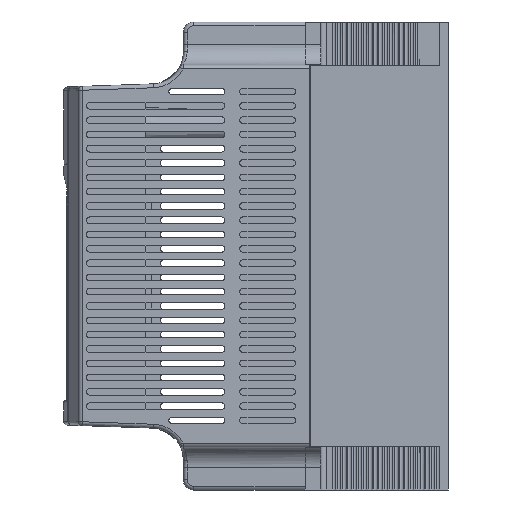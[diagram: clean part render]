
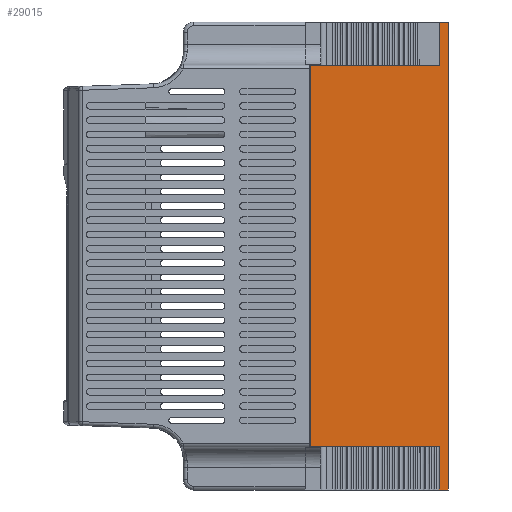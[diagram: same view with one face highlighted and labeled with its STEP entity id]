
A CAD part, left-side view. The second image highlights one B-rep face of the part: STEP entity #29015.
In plain terms, the highlighted planar face has unit normal (-1, 0, 0).
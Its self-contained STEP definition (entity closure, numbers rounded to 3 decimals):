
#1097=DIRECTION('',(0.,0.,1.));
#1098=VECTOR('',#1097,16.55);
#1099=CARTESIAN_POINT('',(-50.,-51.5,73.45));
#1100=LINE('',#1099,#1098);
#4853=DIRECTION('',(0.,0.,1.));
#4854=VECTOR('',#4853,180.);
#4855=CARTESIAN_POINT('',(-50.,-55.,-90.));
#4856=LINE('',#4855,#4854);
#6471=DIRECTION('',(0.,1.,0.));
#6472=VECTOR('',#6471,49.7);
#6473=CARTESIAN_POINT('',(-50.,-51.5,73.45));
#6474=LINE('',#6473,#6472);
#6483=DIRECTION('',(0.,0.,1.));
#6484=VECTOR('',#6483,146.9);
#6485=CARTESIAN_POINT('',(-50.,-1.8,-73.45));
#6486=LINE('',#6485,#6484);
#6487=DIRECTION('',(0.,-1.,0.));
#6488=VECTOR('',#6487,3.5);
#6489=CARTESIAN_POINT('',(-50.,-51.5,90.));
#6490=LINE('',#6489,#6488);
#6491=DIRECTION('',(0.,-1.,0.));
#6492=VECTOR('',#6491,3.5);
#6493=CARTESIAN_POINT('',(-50.,-51.5,-90.));
#6494=LINE('',#6493,#6492);
#6495=DIRECTION('',(0.,0.,1.));
#6496=VECTOR('',#6495,16.55);
#6497=CARTESIAN_POINT('',(-50.,-51.5,-90.));
#6498=LINE('',#6497,#6496);
#6499=DIRECTION('',(0.,-1.,0.));
#6500=VECTOR('',#6499,49.7);
#6501=CARTESIAN_POINT('',(-50.,-1.8,-73.45));
#6502=LINE('',#6501,#6500);
#18281=CARTESIAN_POINT('',(-50.,-55.,-90.));
#18282=CARTESIAN_POINT('',(-50.,-55.,90.));
#18283=VERTEX_POINT('',#18281);
#18284=VERTEX_POINT('',#18282);
#22449=CARTESIAN_POINT('',(-50.,-51.5,73.45));
#22450=CARTESIAN_POINT('',(-50.,-51.5,90.));
#22451=VERTEX_POINT('',#22449);
#22452=VERTEX_POINT('',#22450);
#22477=CARTESIAN_POINT('',(-50.,-51.5,-90.));
#22478=CARTESIAN_POINT('',(-50.,-51.5,-73.45));
#22479=VERTEX_POINT('',#22477);
#22480=VERTEX_POINT('',#22478);
#22497=CARTESIAN_POINT('',(-50.,-1.8,-73.45));
#22498=CARTESIAN_POINT('',(-50.,-1.8,73.45));
#22499=VERTEX_POINT('',#22497);
#22500=VERTEX_POINT('',#22498);
#28999=CARTESIAN_POINT('',(-50.,82.052,-90.));
#29000=DIRECTION('',(-1.,0.,0.));
#29001=DIRECTION('',(0.,-1.,0.));
#29002=AXIS2_PLACEMENT_3D('',#28999,#29000,#29001);
#29003=PLANE('',#29002);
#29004=ORIENTED_EDGE('',*,*,#28990,.T.);
#29005=ORIENTED_EDGE('',*,*,#28964,.F.);
#29006=ORIENTED_EDGE('',*,*,#22990,.T.);
#29007=ORIENTED_EDGE('',*,*,#22638,.T.);
#29008=ORIENTED_EDGE('',*,*,#24609,.F.);
#29009=ORIENTED_EDGE('',*,*,#23035,.F.);
#29010=ORIENTED_EDGE('',*,*,#22998,.T.);
#29012=ORIENTED_EDGE('',*,*,#29011,.F.);
#29013=EDGE_LOOP('',(#29004,#29005,#29006,#29007,#29008,#29009,#29010,#29012));
#29014=FACE_OUTER_BOUND('',#29013,.F.);
#29015=ADVANCED_FACE('',(#29014),#29003,.T.);
#22638=EDGE_CURVE('',#22452,#18284,#6490,.T.);
#22990=EDGE_CURVE('',#22451,#22452,#1100,.T.);
#22998=EDGE_CURVE('',#22479,#22480,#6498,.T.);
#23035=EDGE_CURVE('',#22479,#18283,#6494,.T.);
#24609=EDGE_CURVE('',#18283,#18284,#4856,.T.);
#28964=EDGE_CURVE('',#22451,#22500,#6474,.T.);
#28990=EDGE_CURVE('',#22499,#22500,#6486,.T.);
#29011=EDGE_CURVE('',#22499,#22480,#6502,.T.);
